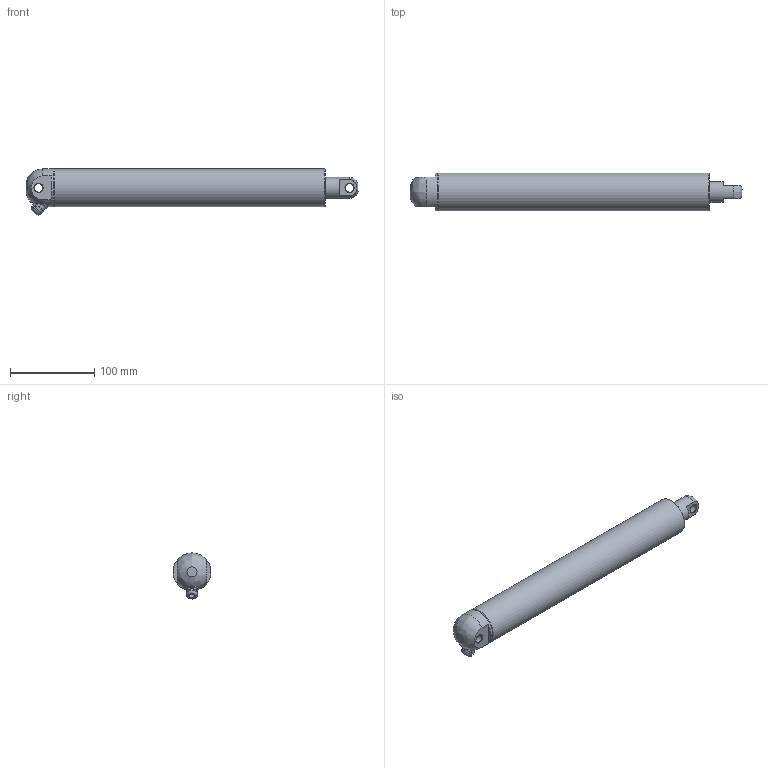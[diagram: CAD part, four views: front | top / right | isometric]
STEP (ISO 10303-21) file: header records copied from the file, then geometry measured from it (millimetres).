
FILE_DESCRIPTION( ( 'Unknown' ), '1' );
FILE_NAME( 'Z:/12¬ãµo³¡/Project/Automation/Linear Actuators/CAD/ELA45/STEP/ELA45100B.stp', 'Unknown', ( 'Unknown' ), ( 'Unknown' ), 'PSStep 10.0', 'Unknown', ' ' );
FILE_SCHEMA( ( 'AUTOMOTIVE_DESIGN { 1 0 10303 214 1 1 1 1 }' ) );
Length unit declared in the file: millimetre
Products named in the file (1): 1
Bounding box: 395 x 45 x 54.84 mm (x, y, z)
Volume: 162732.3 mm3; surface area: 100200.7 mm2
Topology: 1 solids, 2 shells, 64 faces, 159 edges, 104 vertices
Faces by surface type: plane 32, cylinder 22, cone 7, bspline 2, torus 1
Full cylindrical faces by diameter (mm): 6.4 x1, 10.1 x2, 13.8 x2, 25 x1, 40 x1, 45 x2
Entity records: 2566 total; most frequent: CARTESIAN_POINT 604, DIRECTION 312, ORIENTED_EDGE 262, EDGE_CURVE 131, AXIS2_PLACEMENT_3D 125, VERTEX_POINT 95, EDGE_LOOP 92, FACE_OUTER_BOUND 76
